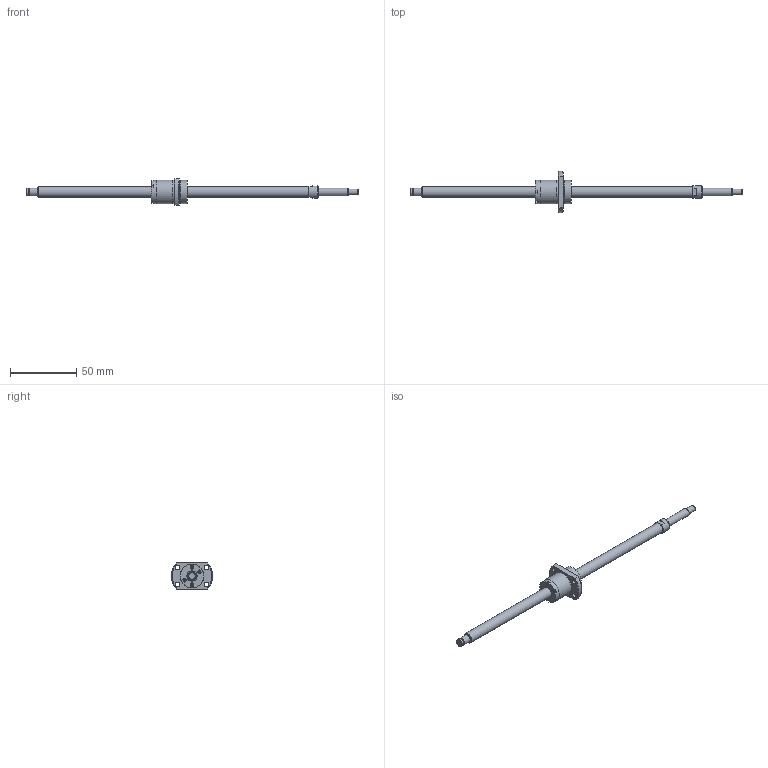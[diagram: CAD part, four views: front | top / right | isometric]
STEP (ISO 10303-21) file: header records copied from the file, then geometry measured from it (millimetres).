
FILE_DESCRIPTION(/* description */ ('STEP AP214'),/* implementation_level */ '2;1');
FILE_NAME(/* name */ 'SG0812-198R250C5B0X(85.5)',/* time_stamp */ '2026-07-23T22:53:07+02:00',/* author */ ('License CC BY-ND 4.0'),/* organization */ ('CADENAS'),/* preprocessor_version */ 'ST-DEVELOPER v20',/* originating_system */ 'PARTsolutions',/* authorisation */ ' ');
FILE_SCHEMA (('AUTOMOTIVE_DESIGN {1 0 10303 214 3 1 1}'));
Length unit declared in the file: millimetre
Products named in the file (3): SG0812-198R250C5B0X(85.5); SG0812-198R250C5B_shaft; SG0812 C5_nut
Assembly tree (2 placements, depth 2):
  SG0812-198R250C5B0X(85.5)
    SG0812-198R250C5B_shaft
    SG0812 C5_nut
Bounding box: 250 x 30.91 x 20 mm (x, y, z)
Volume: 18207.5 mm3; surface area: 9691.4 mm2
Topology: 2 solids, 2 shells, 107 faces, 242 edges, 157 vertices
Faces by surface type: plane 66, cylinder 27, cone 13, torus 1
Full cylindrical faces by diameter (mm): 2.25 x4, 3.4 x4, 4.5 x1, 5.7 x1, 6 x3, 8 x2, 9.5 x1, 17.5 x3, 18 x2
Entity records: 2921 total; most frequent: DIRECTION 500, CARTESIAN_POINT 498, ORIENTED_EDGE 418, EDGE_CURVE 209, AXIS2_PLACEMENT_3D 189, EDGE_LOOP 166, FACE_BOUND 166, VERTEX_POINT 155
